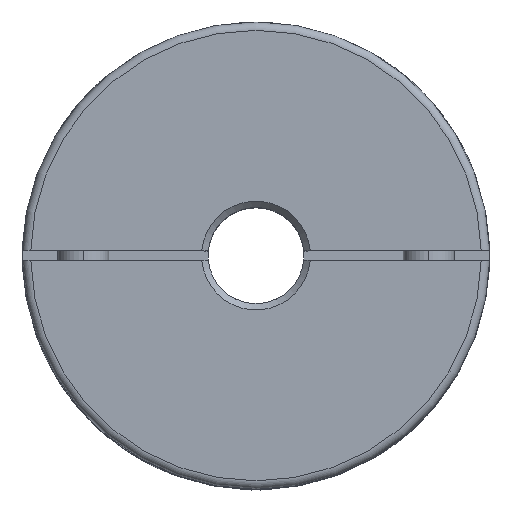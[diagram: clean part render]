
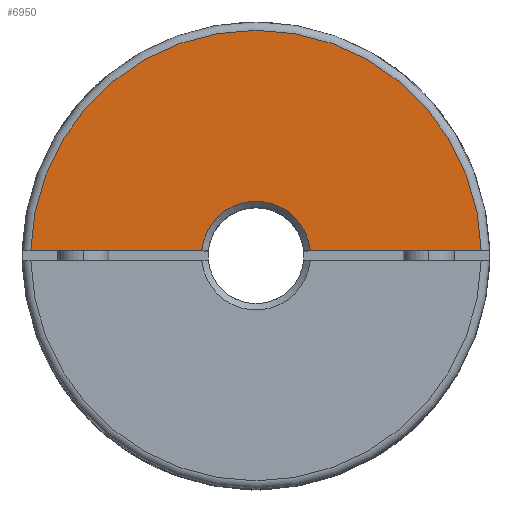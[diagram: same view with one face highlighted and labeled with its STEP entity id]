
A CAD part, top view. The second image highlights one B-rep face of the part: STEP entity #6950.
In plain terms, the highlighted planar face has unit normal (0, 0, 1).
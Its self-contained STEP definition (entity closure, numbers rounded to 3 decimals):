
#32 = EDGE_CURVE ( 'NONE', #8167, #8157, #2974, .T. ) ;
#63 = EDGE_CURVE ( 'NONE', #8159, #8157, #3007, .T. ) ;
#64 = EDGE_CURVE ( 'NONE', #8167, #8160, #3000, .T. ) ;
#2074 = VECTOR ( 'NONE', #7280, 1000. ) ;
#2077 = LINE ( 'NONE', #7283, #2074 ) ;
#2974 = LINE ( 'NONE', #10135, #2977 ) ;
#2977 = VECTOR ( 'NONE', #10124, 1000. ) ;
#3000 = CIRCLE ( 'NONE', #7016, 35.2 ) ;
#3007 = CIRCLE ( 'NONE', #7015, 8.5 ) ;
#3624 = CARTESIAN_POINT ( 'NONE',  ( 35.192, 0.75, 40.75 ) ) ;
#3636 = CARTESIAN_POINT ( 'NONE',  ( -8.467, 0.75, 40.75 ) ) ;
#3642 = CARTESIAN_POINT ( 'NONE',  ( -35.192, 0.75, 40.75 ) ) ;
#3645 = CARTESIAN_POINT ( 'NONE',  ( 8.467, 0.75, 40.75 ) ) ;
#4126 = DIRECTION ( 'NONE',  ( 1., 0., 0. ) ) ;
#4127 = DIRECTION ( 'NONE',  ( 0., 0., -1. ) ) ;
#4135 = PLANE ( 'NONE',  #4995 ) ;
#4136 = CARTESIAN_POINT ( 'NONE',  ( 0., 0., 40.75 ) ) ;
#4640 = ORIENTED_EDGE ( 'NONE', *, *, #64, .T. ) ;
#4641 = ORIENTED_EDGE ( 'NONE', *, *, #32, .F. ) ;
#4642 = ORIENTED_EDGE ( 'NONE', *, *, #63, .T. ) ;
#4643 = ORIENTED_EDGE ( 'NONE', *, *, #5533, .F. ) ;
#4995 = AXIS2_PLACEMENT_3D ( 'NONE', #4136, #4127, #4126 ) ;
#5218 = FACE_OUTER_BOUND ( 'NONE', #5776, .T. ) ;
#5533 = EDGE_CURVE ( 'NONE', #8159, #8160, #2077, .T. ) ;
#5776 = EDGE_LOOP ( 'NONE', ( #4643, #4642, #4641, #4640 ) ) ;
#6950 = ADVANCED_FACE ( 'NONE', ( #5218 ), #4135, .F. ) ;
#7015 = AXIS2_PLACEMENT_3D ( 'NONE', #9982, #9981, #9980 ) ;
#7016 = AXIS2_PLACEMENT_3D ( 'NONE', #9978, #9977, #9988 ) ;
#7280 = DIRECTION ( 'NONE',  ( -1., 0., 0. ) ) ;
#7283 = CARTESIAN_POINT ( 'NONE',  ( 36.5, 0.75, 40.75 ) ) ;
#8157 = VERTEX_POINT ( 'NONE', #3645 ) ;
#8159 = VERTEX_POINT ( 'NONE', #3636 ) ;
#8160 = VERTEX_POINT ( 'NONE', #3642 ) ;
#8167 = VERTEX_POINT ( 'NONE', #3624 ) ;
#9977 = DIRECTION ( 'NONE',  ( 0., 0., 1. ) ) ;
#9978 = CARTESIAN_POINT ( 'NONE',  ( 0., 0., 40.75 ) ) ;
#9980 = DIRECTION ( 'NONE',  ( 0., 1., 0. ) ) ;
#9981 = DIRECTION ( 'NONE',  ( 0., 0., -1. ) ) ;
#9982 = CARTESIAN_POINT ( 'NONE',  ( 0., 0., 40.75 ) ) ;
#9988 = DIRECTION ( 'NONE',  ( 1., 0., 0. ) ) ;
#10124 = DIRECTION ( 'NONE',  ( -1., 0., 0. ) ) ;
#10135 = CARTESIAN_POINT ( 'NONE',  ( 36.5, 0.75, 40.75 ) ) ;
